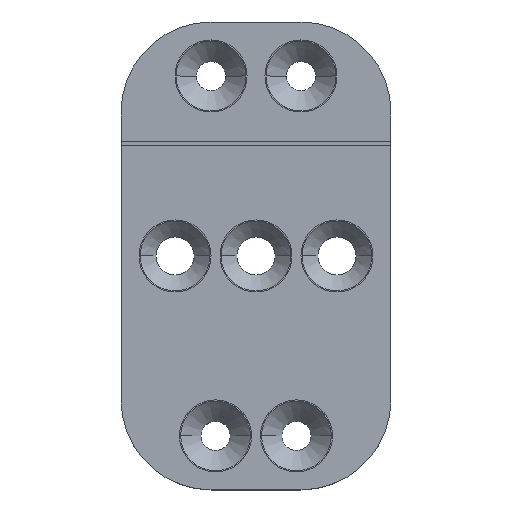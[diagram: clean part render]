
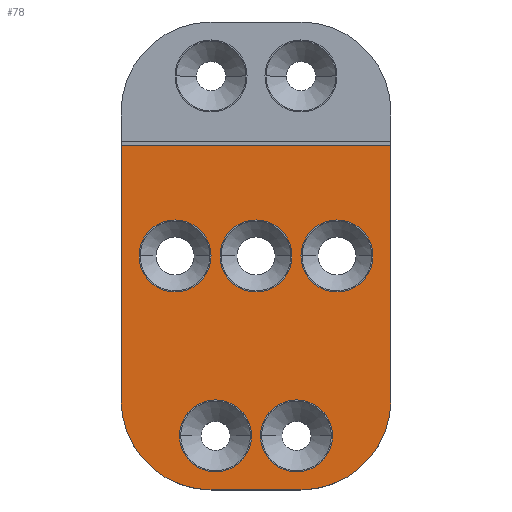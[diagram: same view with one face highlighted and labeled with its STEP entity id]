
A CAD part, top view. The second image highlights one B-rep face of the part: STEP entity #78.
In plain terms, the highlighted planar face has unit normal (0, 0, 1).
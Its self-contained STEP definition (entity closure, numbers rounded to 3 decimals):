
#2 = DIRECTION ( 'NONE',  ( 0., 0., 1. ) ) ;
#5 = CIRCLE ( 'NONE', #774, 8. ) ;
#14 = EDGE_LOOP ( 'NONE', ( #1716, #1377 ) ) ;
#21 = CARTESIAN_POINT ( 'NONE',  ( 22., 52., 20. ) ) ;
#28 = DIRECTION ( 'NONE',  ( 0., 0., 1. ) ) ;
#40 = EDGE_CURVE ( 'NONE', #86, #654, #887, .T. ) ;
#49 = VERTEX_POINT ( 'NONE', #1501 ) ;
#60 = VERTEX_POINT ( 'NONE', #1913 ) ;
#65 = ORIENTED_EDGE ( 'NONE', *, *, #1440, .F. ) ;
#74 = AXIS2_PLACEMENT_3D ( 'NONE', #1198, #608, #583 ) ;
#78 = ADVANCED_FACE ( 'NONE', ( #483, #1567, #844, #461, #775, #1761 ), #459, .F. ) ;
#86 = VERTEX_POINT ( 'NONE', #1033 ) ;
#87 = EDGE_CURVE ( 'NONE', #474, #1138, #1211, .T. ) ;
#103 = CARTESIAN_POINT ( 'NONE',  ( 31., 12., 20. ) ) ;
#104 = ORIENTED_EDGE ( 'NONE', *, *, #547, .F. ) ;
#127 = CARTESIAN_POINT ( 'NONE',  ( 20., 52., 20. ) ) ;
#131 = EDGE_CURVE ( 'NONE', #587, #1021, #458, .T. ) ;
#138 = CIRCLE ( 'NONE', #1628, 8. ) ;
#174 = DIRECTION ( 'NONE',  ( 1., 0., 0. ) ) ;
#188 = LINE ( 'NONE', #1173, #1806 ) ;
#217 = ORIENTED_EDGE ( 'NONE', *, *, #343, .T. ) ;
#219 = EDGE_CURVE ( 'NONE', #1320, #319, #999, .T. ) ;
#269 = ORIENTED_EDGE ( 'NONE', *, *, #750, .F. ) ;
#289 = CARTESIAN_POINT ( 'NONE',  ( 39., 12., 20. ) ) ;
#308 = LINE ( 'NONE', #1767, #644 ) ;
#312 = DIRECTION ( 'NONE',  ( 0., 1., 0. ) ) ;
#319 = VERTEX_POINT ( 'NONE', #829 ) ;
#329 = EDGE_LOOP ( 'NONE', ( #104, #523 ) ) ;
#343 = EDGE_CURVE ( 'NONE', #448, #1320, #1857, .T. ) ;
#347 = EDGE_CURVE ( 'NONE', #563, #1193, #1044, .T. ) ;
#373 = CARTESIAN_POINT ( 'NONE',  ( 40., 20., 20. ) ) ;
#390 = EDGE_CURVE ( 'NONE', #1711, #319, #1364, .T. ) ;
#396 = CARTESIAN_POINT ( 'NONE',  ( 21., 12., 20. ) ) ;
#416 = DIRECTION ( 'NONE',  ( 1., 0., 0. ) ) ;
#443 = DIRECTION ( 'NONE',  ( 1., 0., 0. ) ) ;
#448 = VERTEX_POINT ( 'NONE', #568 ) ;
#451 = CARTESIAN_POINT ( 'NONE',  ( 30., 52., 20. ) ) ;
#455 = CIRCLE ( 'NONE', #596, 8. ) ;
#458 = CIRCLE ( 'NONE', #1691, 20. ) ;
#459 = PLANE ( 'NONE',  #74 ) ;
#461 = FACE_BOUND ( 'NONE', #626, .T. ) ;
#474 = VERTEX_POINT ( 'NONE', #103 ) ;
#475 = CIRCLE ( 'NONE', #1446, 8. ) ;
#483 = FACE_BOUND ( 'NONE', #329, .T. ) ;
#519 = AXIS2_PLACEMENT_3D ( 'NONE', #289, #1335, #443 ) ;
#523 = ORIENTED_EDGE ( 'NONE', *, *, #87, .F. ) ;
#547 = EDGE_CURVE ( 'NONE', #1138, #474, #455, .T. ) ;
#548 = EDGE_LOOP ( 'NONE', ( #1096, #1247, #1807, #217, #1086, #582 ) ) ;
#551 = CIRCLE ( 'NONE', #739, 8. ) ;
#563 = VERTEX_POINT ( 'NONE', #127 ) ;
#568 = CARTESIAN_POINT ( 'NONE',  ( 40., 0., 20. ) ) ;
#580 = AXIS2_PLACEMENT_3D ( 'NONE', #373, #1580, #1736 ) ;
#582 = ORIENTED_EDGE ( 'NONE', *, *, #390, .F. ) ;
#583 = DIRECTION ( 'NONE',  ( -1., 0., 0. ) ) ;
#587 = VERTEX_POINT ( 'NONE', #733 ) ;
#596 = AXIS2_PLACEMENT_3D ( 'NONE', #1629, #1661, #1800 ) ;
#599 = CARTESIAN_POINT ( 'NONE',  ( 48., 52., 20. ) ) ;
#604 = ORIENTED_EDGE ( 'NONE', *, *, #40, .F. ) ;
#608 = DIRECTION ( 'NONE',  ( 0., 0., -1. ) ) ;
#626 = EDGE_LOOP ( 'NONE', ( #666, #879 ) ) ;
#644 = VECTOR ( 'NONE', #1471, 1000. ) ;
#654 = VERTEX_POINT ( 'NONE', #932 ) ;
#666 = ORIENTED_EDGE ( 'NONE', *, *, #1889, .F. ) ;
#688 = VERTEX_POINT ( 'NONE', #21 ) ;
#690 = CIRCLE ( 'NONE', #1422, 8. ) ;
#733 = CARTESIAN_POINT ( 'NONE',  ( 0., 20., 20. ) ) ;
#739 = AXIS2_PLACEMENT_3D ( 'NONE', #396, #1169, #1007 ) ;
#743 = DIRECTION ( 'NONE',  ( 1., 0., 0. ) ) ;
#750 = EDGE_CURVE ( 'NONE', #1193, #563, #5, .T. ) ;
#769 = CARTESIAN_POINT ( 'NONE',  ( 30., 52., 20. ) ) ;
#774 = AXIS2_PLACEMENT_3D ( 'NONE', #1522, #28, #174 ) ;
#775 = FACE_BOUND ( 'NONE', #1619, .T. ) ;
#778 = DIRECTION ( 'NONE',  ( 1., 0., 0. ) ) ;
#829 = CARTESIAN_POINT ( 'NONE',  ( 60., 76.5, 20. ) ) ;
#844 = FACE_BOUND ( 'NONE', #1568, .T. ) ;
#874 = CARTESIAN_POINT ( 'NONE',  ( 0., 76.5, 20. ) ) ;
#879 = ORIENTED_EDGE ( 'NONE', *, *, #1866, .F. ) ;
#887 = CIRCLE ( 'NONE', #1341, 8. ) ;
#897 = CARTESIAN_POINT ( 'NONE',  ( 21., 12., 20. ) ) ;
#919 = CARTESIAN_POINT ( 'NONE',  ( 20., 20., 20. ) ) ;
#932 = CARTESIAN_POINT ( 'NONE',  ( 40., 52., 20. ) ) ;
#998 = CARTESIAN_POINT ( 'NONE',  ( 12., 52., 20. ) ) ;
#999 = LINE ( 'NONE', #1801, #1017 ) ;
#1007 = DIRECTION ( 'NONE',  ( 1., 0., 0. ) ) ;
#1014 = DIRECTION ( 'NONE',  ( 1., 0., 0. ) ) ;
#1017 = VECTOR ( 'NONE', #312, 1000. ) ;
#1021 = VERTEX_POINT ( 'NONE', #1303 ) ;
#1027 = CARTESIAN_POINT ( 'NONE',  ( 0., 76.5, 20. ) ) ;
#1033 = CARTESIAN_POINT ( 'NONE',  ( 56., 52., 20. ) ) ;
#1044 = CIRCLE ( 'NONE', #1415, 8. ) ;
#1076 = DIRECTION ( 'NONE',  ( -1., 0., 0. ) ) ;
#1086 = ORIENTED_EDGE ( 'NONE', *, *, #219, .T. ) ;
#1096 = ORIENTED_EDGE ( 'NONE', *, *, #1791, .T. ) ;
#1105 = EDGE_CURVE ( 'NONE', #1439, #49, #551, .T. ) ;
#1116 = DIRECTION ( 'NONE',  ( 1., 0., 0. ) ) ;
#1138 = VERTEX_POINT ( 'NONE', #1597 ) ;
#1169 = DIRECTION ( 'NONE',  ( 0., 0., 1. ) ) ;
#1173 = CARTESIAN_POINT ( 'NONE',  ( 0., 0., 20. ) ) ;
#1192 = DIRECTION ( 'NONE',  ( 0., 0., 1. ) ) ;
#1193 = VERTEX_POINT ( 'NONE', #1649 ) ;
#1198 = CARTESIAN_POINT ( 'NONE',  ( 0., 0., 20. ) ) ;
#1202 = DIRECTION ( 'NONE',  ( 1., 0., 0. ) ) ;
#1211 = CIRCLE ( 'NONE', #519, 8. ) ;
#1247 = ORIENTED_EDGE ( 'NONE', *, *, #131, .T. ) ;
#1248 = CIRCLE ( 'NONE', #1696, 8. ) ;
#1254 = CARTESIAN_POINT ( 'NONE',  ( 29., 12., 20. ) ) ;
#1272 = ORIENTED_EDGE ( 'NONE', *, *, #347, .F. ) ;
#1303 = CARTESIAN_POINT ( 'NONE',  ( 20., 0., 20. ) ) ;
#1320 = VERTEX_POINT ( 'NONE', #1516 ) ;
#1335 = DIRECTION ( 'NONE',  ( 0., 0., 1. ) ) ;
#1341 = AXIS2_PLACEMENT_3D ( 'NONE', #599, #1640, #743 ) ;
#1364 = LINE ( 'NONE', #1027, #1924 ) ;
#1377 = ORIENTED_EDGE ( 'NONE', *, *, #1835, .F. ) ;
#1402 = DIRECTION ( 'NONE',  ( 0., 0., 1. ) ) ;
#1415 = AXIS2_PLACEMENT_3D ( 'NONE', #998, #1869, #1438 ) ;
#1422 = AXIS2_PLACEMENT_3D ( 'NONE', #897, #2, #1202 ) ;
#1438 = DIRECTION ( 'NONE',  ( 1., 0., 0. ) ) ;
#1439 = VERTEX_POINT ( 'NONE', #1254 ) ;
#1440 = EDGE_CURVE ( 'NONE', #654, #86, #475, .T. ) ;
#1446 = AXIS2_PLACEMENT_3D ( 'NONE', #1848, #1547, #1116 ) ;
#1471 = DIRECTION ( 'NONE',  ( 0., -1., 0. ) ) ;
#1501 = CARTESIAN_POINT ( 'NONE',  ( 13., 12., 20. ) ) ;
#1512 = DIRECTION ( 'NONE',  ( 1., 0., 0. ) ) ;
#1516 = CARTESIAN_POINT ( 'NONE',  ( 60., 20., 20. ) ) ;
#1522 = CARTESIAN_POINT ( 'NONE',  ( 12., 52., 20. ) ) ;
#1547 = DIRECTION ( 'NONE',  ( 0., 0., 1. ) ) ;
#1567 = FACE_BOUND ( 'NONE', #14, .T. ) ;
#1568 = EDGE_LOOP ( 'NONE', ( #604, #65 ) ) ;
#1580 = DIRECTION ( 'NONE',  ( 0., 0., 1. ) ) ;
#1597 = CARTESIAN_POINT ( 'NONE',  ( 47., 12., 20. ) ) ;
#1619 = EDGE_LOOP ( 'NONE', ( #1272, #269 ) ) ;
#1628 = AXIS2_PLACEMENT_3D ( 'NONE', #451, #1645, #778 ) ;
#1629 = CARTESIAN_POINT ( 'NONE',  ( 39., 12., 20. ) ) ;
#1640 = DIRECTION ( 'NONE',  ( 0., 0., 1. ) ) ;
#1645 = DIRECTION ( 'NONE',  ( 0., 0., 1. ) ) ;
#1649 = CARTESIAN_POINT ( 'NONE',  ( 4., 52., 20. ) ) ;
#1661 = DIRECTION ( 'NONE',  ( 0., 0., 1. ) ) ;
#1691 = AXIS2_PLACEMENT_3D ( 'NONE', #919, #1402, #1076 ) ;
#1696 = AXIS2_PLACEMENT_3D ( 'NONE', #769, #1192, #1512 ) ;
#1711 = VERTEX_POINT ( 'NONE', #874 ) ;
#1716 = ORIENTED_EDGE ( 'NONE', *, *, #1105, .F. ) ;
#1731 = EDGE_CURVE ( 'NONE', #1021, #448, #188, .T. ) ;
#1736 = DIRECTION ( 'NONE',  ( -1., 0., 0. ) ) ;
#1761 = FACE_OUTER_BOUND ( 'NONE', #548, .T. ) ;
#1767 = CARTESIAN_POINT ( 'NONE',  ( 0., 0., 20. ) ) ;
#1791 = EDGE_CURVE ( 'NONE', #1711, #587, #308, .T. ) ;
#1800 = DIRECTION ( 'NONE',  ( 1., 0., 0. ) ) ;
#1801 = CARTESIAN_POINT ( 'NONE',  ( 60., 0., 20. ) ) ;
#1806 = VECTOR ( 'NONE', #416, 1000. ) ;
#1807 = ORIENTED_EDGE ( 'NONE', *, *, #1731, .T. ) ;
#1835 = EDGE_CURVE ( 'NONE', #49, #1439, #690, .T. ) ;
#1848 = CARTESIAN_POINT ( 'NONE',  ( 48., 52., 20. ) ) ;
#1857 = CIRCLE ( 'NONE', #580, 20. ) ;
#1866 = EDGE_CURVE ( 'NONE', #688, #60, #138, .T. ) ;
#1869 = DIRECTION ( 'NONE',  ( 0., 0., 1. ) ) ;
#1889 = EDGE_CURVE ( 'NONE', #60, #688, #1248, .T. ) ;
#1913 = CARTESIAN_POINT ( 'NONE',  ( 38., 52., 20. ) ) ;
#1924 = VECTOR ( 'NONE', #1014, 1000. ) ;
